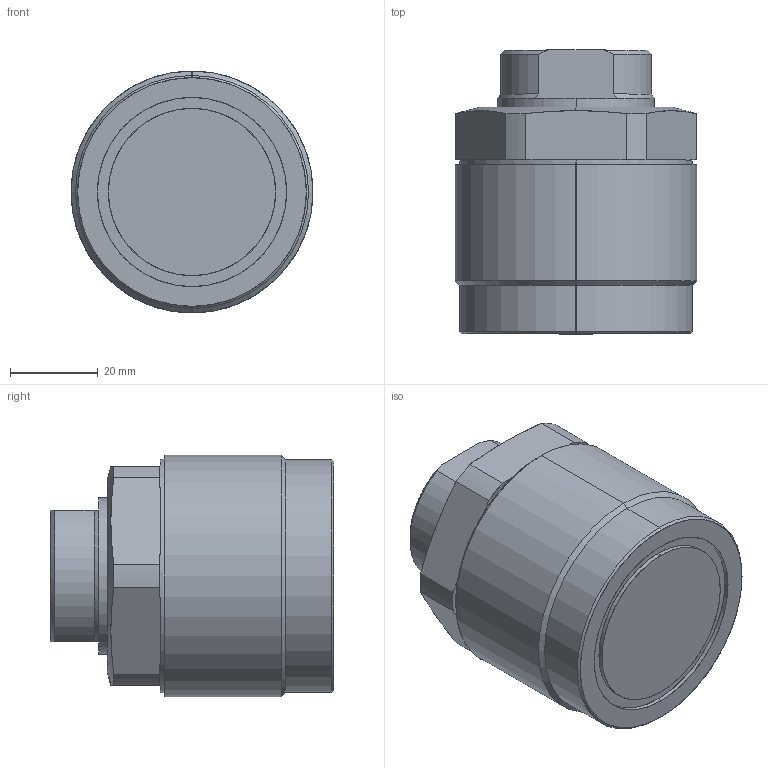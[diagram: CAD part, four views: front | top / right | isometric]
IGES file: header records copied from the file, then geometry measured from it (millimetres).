
Start section: SolidWorks IGES file using analytic representation for surfaces
Global section: file name: D:\karuppas\Clasp\3D model\Thread body cylinder\T03C-M556-S threaded pusher\T03C-M556-S threaded pusher.IGS; native system: SolidWorks 2017; preprocessor: SolidWorks 2017; author: pc; date: 220709.231611; units: millimetre
Bounding box: 55 x 64.5 x 55 mm (x, y, z)
Surface area: 20821.3 mm2 (no closed solid volume)
Topology: 0 solids, 0 shells, 265 faces, 3738 edges, 3736 vertices
Faces by surface type: bspline 229, revolution 36
